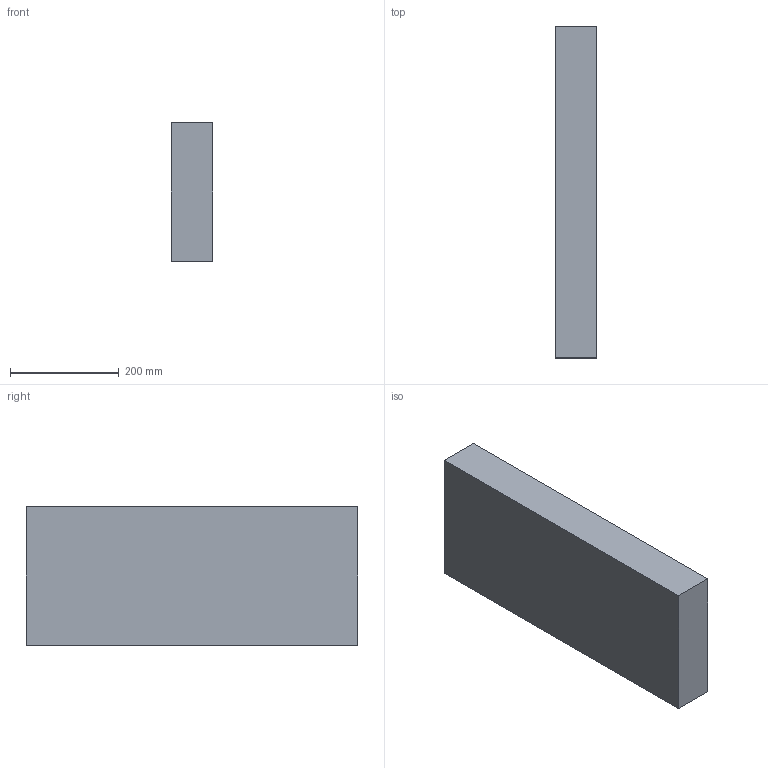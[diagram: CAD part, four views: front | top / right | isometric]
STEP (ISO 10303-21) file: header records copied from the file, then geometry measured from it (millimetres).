
FILE_DESCRIPTION(/* description */ (''),/* implementation_level */ '2;1');
FILE_NAME(/* name */ '3x10x24',/* time_stamp */ '2024-09-20T11:43:23-05:00',/* author */ (''),/* organization */ (''),/* preprocessor_version */ 'ST-DEVELOPER v19.2',/* originating_system */ 'Rhino 8.5',/* authorisation */ '');
FILE_SCHEMA (('CONFIG_CONTROL_DESIGN'));
Length unit declared in the file: inch
Products named in the file (1): Document
Bounding box: 76.2 x 609.6 x 254 mm (x, y, z)
Volume: 11798686.1 mm3; surface area: 441289.4 mm2
Topology: 1 solids, 1 shells, 6 faces, 12 edges, 8 vertices
Faces by surface type: plane 6
Entity records: 226 total; most frequent: CARTESIAN_POINT 40, ORIENTED_EDGE 24, EDGE_CURVE 12, B_SPLINE_CURVE_WITH_KNOTS 12, DIRECTION 10, VERTEX_POINT 8, AXIS2_PLACEMENT_3D 8, ORGANIZATION 7
